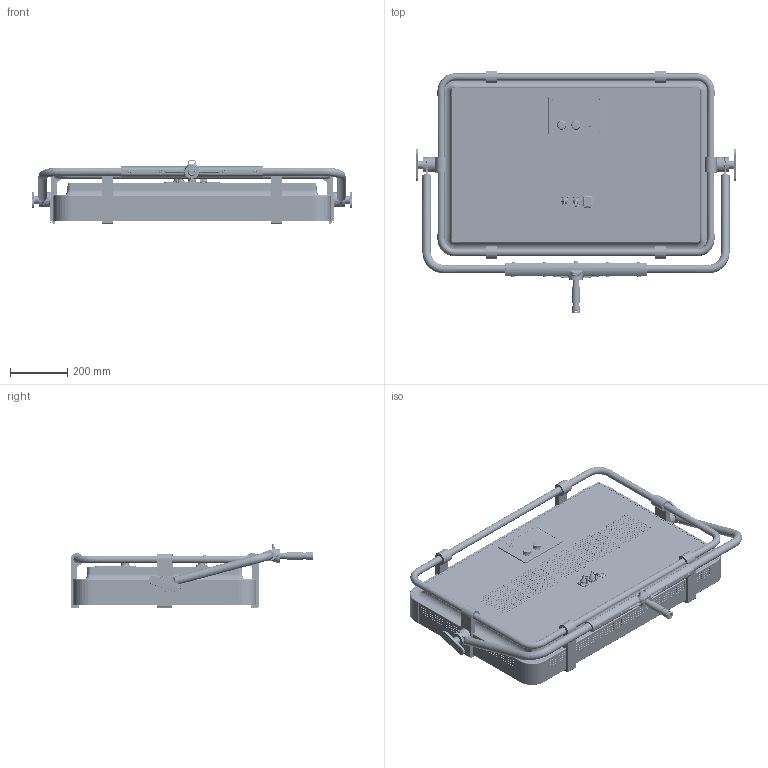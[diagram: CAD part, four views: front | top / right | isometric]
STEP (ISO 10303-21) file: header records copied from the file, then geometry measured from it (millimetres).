
FILE_DESCRIPTION (( 'STEP AP214' ), '1' );
FILE_NAME ('D0069560#0_161128_Profoto_ProPanel3x2_dead_for_web.STEP', '2026-01-30T12:20:29', ( '' ), ( '' ), 'SwSTEP 2.0', 'SolidWorks 2024', '' );
FILE_SCHEMA (( 'AUTOMOTIVE_DESIGN' ));
Products named in the file (4): D0069561#0_161129; D0069562#0_161130; D0069563#0_161131; D0069560#0_161128_Profoto_ProPanel3x2_dead_for_web
Assembly tree (3 placements, depth 2):
  D0069560#0_161128_Profoto_ProPanel3x2_dead_for_web
    D0069561#0_161129
    D0069563#0_161131
    D0069562#0_161130
Bounding box: 1122 x 849.62 x 225.06 mm (x, y, z)
Volume: 75116732.1 mm3; surface area: 2586157.8 mm2
Topology: 4 solids, 45 shells, 7840 faces, 20327 edges, 13113 vertices
Faces by surface type: plane 3794, cylinder 2608, bspline 954, cone 229, torus 203, sphere 52
Full cylindrical faces by diameter (mm): 0.02 x14, 1.28 x5, 1.35 x5, 3.2 x8, 3.3 x4, 3.4 x2, 3.5 x2, 4.5 x8, 6.1 x2, 8 x2, 8.5 x4, 9 x2, 12 x4, 13 x1, 13.986 x4, 15 x1, 15.75 x1, 16 x1, 16.238 x1, 16.5 x1, 16.503 x2, 18 x1, 19.2 x1, 20 x2, 23 x2, 23.5 x1, 24 x1, 25 x4, 28 x2, 51.017 x2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
Entity records: 404173 total; most frequent: CARTESIAN_POINT 221353, ORIENTED_EDGE 40084, DIRECTION 34642, EDGE_CURVE 20042, VERTEX_POINT 13023, AXIS2_PLACEMENT_3D 11638, LINE 11366, VECTOR 11366
